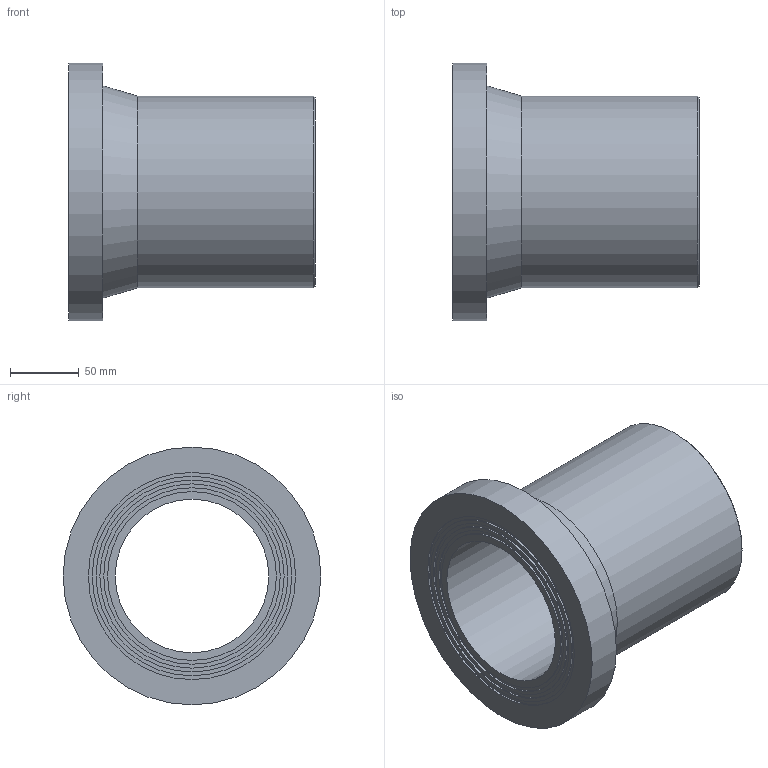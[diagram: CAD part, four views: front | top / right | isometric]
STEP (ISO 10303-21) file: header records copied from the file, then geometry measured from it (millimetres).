
FILE_DESCRIPTION(/* description */ ('Stub Flange 140'),/* implementation_level */ '2;1');
FILE_NAME(/* name */ 'C:\Dropbox\KIMPROJECTS-Inventor\99-16-3568-Processing\ElectroFusion Fittings\31.03.19\490207\490207140.ipt.stp',/* time_stamp */ '2019-03-31T18:57:46+03:00',/* author */ ('Кирилл'),/* organization */ (''),/* preprocessor_version */ 'ST-DEVELOPER v15.6',/* originating_system */ 'Autodesk Inventor 2015',/* authorisation */ '');
FILE_SCHEMA (('AUTOMOTIVE_DESIGN { 1 0 10303 214 3 1 1 }'));
Length unit declared in the file: millimetre
Products named in the file (1): 490207140
Bounding box: 180 x 188 x 188 mm (x, y, z)
Volume: 1343860.2 mm3; surface area: 182967.8 mm2
Topology: 1 solids, 1 shells, 20 faces, 31 edges, 20 vertices
Faces by surface type: cylinder 9, plane 9, cone 2
Full cylindrical faces by diameter (mm): 112 x1, 123.2 x1, 128.8 x1, 134.4 x1, 140 x2, 145.6 x1, 151.2 x1, 188 x1
Entity records: 432 total; most frequent: DIRECTION 82, CARTESIAN_POINT 61, AXIS2_PLACEMENT_3D 41, EDGE_LOOP 40, ORIENTED_EDGE 40, FACE_BOUND 20, FACE_OUTER_BOUND 20, CIRCLE 20
